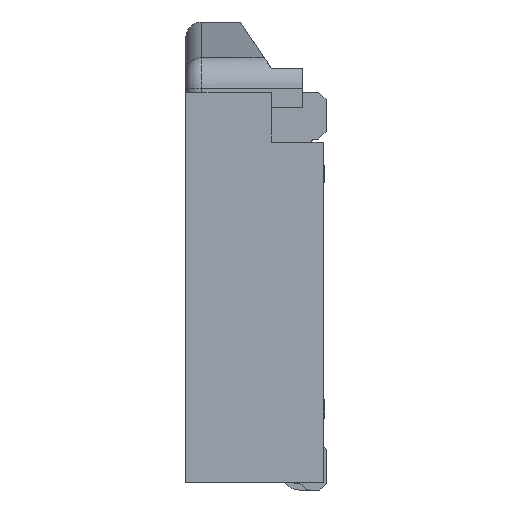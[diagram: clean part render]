
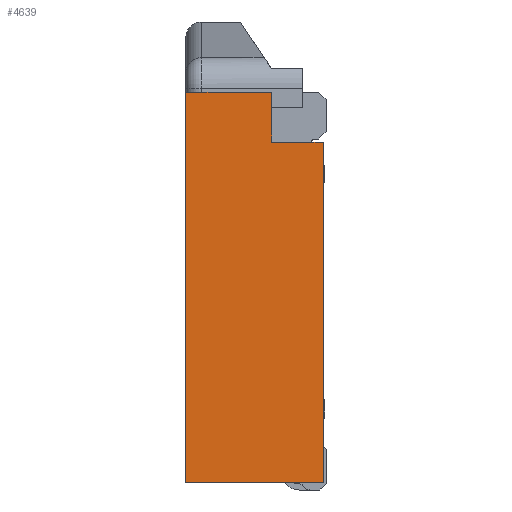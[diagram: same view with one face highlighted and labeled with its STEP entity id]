
A CAD part, left-side view. The second image highlights one B-rep face of the part: STEP entity #4639.
In plain terms, the highlighted planar face has unit normal (-1, 0, 0).
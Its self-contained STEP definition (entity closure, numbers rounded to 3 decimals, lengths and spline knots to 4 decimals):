
#1252 = VERTEX_POINT ( 'NONE', #15699 ) ;
#1294 = EDGE_CURVE ( 'NONE', #1316, #1252, #15795, .T. ) ;
#1316 = VERTEX_POINT ( 'NONE', #15822 ) ;
#4566 = EDGE_CURVE ( 'NONE', #4567, #4586, #21875, .T. ) ;
#4567 = VERTEX_POINT ( 'NONE', #21872 ) ;
#4568 = ORIENTED_EDGE ( 'NONE', *, *, #4573, .F. ) ;
#4570 = VERTEX_POINT ( 'NONE', #21864 ) ;
#4572 = ORIENTED_EDGE ( 'NONE', *, *, #4576, .T. ) ;
#4573 = EDGE_CURVE ( 'NONE', #4581, #4570, #21824, .T. ) ;
#4575 = ORIENTED_EDGE ( 'NONE', *, *, #1294, .T. ) ;
#4576 = EDGE_CURVE ( 'NONE', #4581, #1316, #21849, .T. ) ;
#4579 = EDGE_LOOP ( 'NONE', ( #4594, #4638, #4591, #4568, #4572, #4575 ) ) ;
#4581 = VERTEX_POINT ( 'NONE', #21905 ) ;
#4586 = VERTEX_POINT ( 'NONE', #21853 ) ;
#4590 = EDGE_CURVE ( 'NONE', #4586, #1252, #21891, .T. ) ;
#4591 = ORIENTED_EDGE ( 'NONE', *, *, #4592, .F. ) ;
#4592 = EDGE_CURVE ( 'NONE', #4570, #4567, #21899, .T. ) ;
#4594 = ORIENTED_EDGE ( 'NONE', *, *, #4590, .F. ) ;
#4638 = ORIENTED_EDGE ( 'NONE', *, *, #4566, .F. ) ;
#4639 = ADVANCED_FACE ( 'NONE', ( #21967 ), #21954, .F. ) ;
#15699 = CARTESIAN_POINT ( 'NONE',  ( -3.6, 0.35, 0. ) ) ;
#15792 = DIRECTION ( 'NONE',  ( 0., 0., 1. ) ) ;
#15793 = VECTOR ( 'NONE', #15792, 1000. ) ;
#15794 = CARTESIAN_POINT ( 'NONE',  ( -3.6, 0.35, 0. ) ) ;
#15795 = LINE ( 'NONE', #15794, #15793 ) ;
#15822 = CARTESIAN_POINT ( 'NONE',  ( -3.6, 0.35, -0.32 ) ) ;
#21824 = LINE ( 'NONE', #21852, #21851 ) ;
#21846 = DIRECTION ( 'NONE',  ( 0., 1., 0. ) ) ;
#21847 = VECTOR ( 'NONE', #21846, 1000. ) ;
#21848 = CARTESIAN_POINT ( 'NONE',  ( -3.6, 0.02, -0.32 ) ) ;
#21849 = LINE ( 'NONE', #21848, #21847 ) ;
#21850 = DIRECTION ( 'NONE',  ( 0., 0., -1. ) ) ;
#21851 = VECTOR ( 'NONE', #21850, 1000. ) ;
#21852 = CARTESIAN_POINT ( 'NONE',  ( -3.6, 0.02, -2.5 ) ) ;
#21853 = CARTESIAN_POINT ( 'NONE',  ( -3.6, 0.9, 0. ) ) ;
#21856 = DIRECTION ( 'NONE',  ( 0., 0., 1. ) ) ;
#21857 = VECTOR ( 'NONE', #21856, 1000. ) ;
#21858 = CARTESIAN_POINT ( 'NONE',  ( -3.6, 0.9, 0. ) ) ;
#21864 = CARTESIAN_POINT ( 'NONE',  ( -3.6, 0.02, -2.5 ) ) ;
#21872 = CARTESIAN_POINT ( 'NONE',  ( -3.6, 0.9, -2.5 ) ) ;
#21875 = LINE ( 'NONE', #21858, #21857 ) ;
#21887 = DIRECTION ( 'NONE',  ( 0., 1., 0. ) ) ;
#21888 = VECTOR ( 'NONE', #21887, 1000. ) ;
#21889 = DIRECTION ( 'NONE',  ( 0., -1., 0. ) ) ;
#21890 = VECTOR ( 'NONE', #21889, 1000. ) ;
#21891 = LINE ( 'NONE', #21894, #21890 ) ;
#21894 = CARTESIAN_POINT ( 'NONE',  ( -3.6, 0.9, 0. ) ) ;
#21898 = CARTESIAN_POINT ( 'NONE',  ( -3.6, 0.02, -2.5 ) ) ;
#21899 = LINE ( 'NONE', #21898, #21888 ) ;
#21905 = CARTESIAN_POINT ( 'NONE',  ( -3.6, 0.02, -0.32 ) ) ;
#21948 = DIRECTION ( 'NONE',  ( 0., 0., 1. ) ) ;
#21949 = DIRECTION ( 'NONE',  ( 1., 0., 0. ) ) ;
#21950 = CARTESIAN_POINT ( 'NONE',  ( -3.6, 0.9, -2.4 ) ) ;
#21954 = PLANE ( 'NONE',  #21963 ) ;
#21963 = AXIS2_PLACEMENT_3D ( 'NONE', #21950, #21949, #21948 ) ;
#21967 = FACE_OUTER_BOUND ( 'NONE', #4579, .T. ) ;
